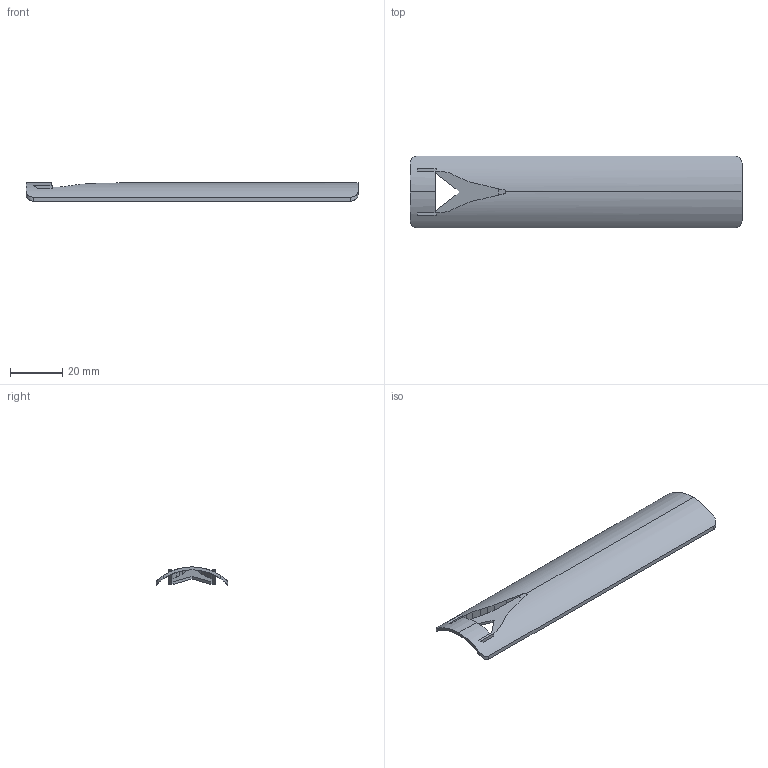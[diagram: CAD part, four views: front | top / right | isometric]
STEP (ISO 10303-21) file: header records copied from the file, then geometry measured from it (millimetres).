
FILE_DESCRIPTION(('SkyG Speed 90B - revision C6B-1 - 2026-10-07','HF-front-hatch'),'2;1');
FILE_NAME('HF-front-hatch_C6B-1','2026-10-07T21:43:16',('Author'),( 'Open CASCADE'),'Open CASCADE STEP processor 7.9','Open CASCADE 7.9' ,'Unknown');
FILE_SCHEMA(('AUTOMOTIVE_DESIGN { 1 0 10303 214 1 1 1 1 }'));
Length unit declared in the file: millimetre
Products named in the file (1): HF-front-hatch C6B-1
Bounding box: 127.4 x 27.4 x 6.98 mm (x, y, z)
Volume: 4276.5 mm3; surface area: 8394.6 mm2
Topology: 1 solids, 1 shells, 85 faces, 240 edges, 157 vertices
Faces by surface type: plane 60, bspline 16, cylinder 9
Entity records: 8674 total; most frequent: CARTESIAN_POINT 4473, DIRECTION 572, ORIENTED_EDGE 480, PCURVE 480, DEFINITIONAL_REPRESENTATION 480, LINE 362, VECTOR 362, B_SPLINE_CURVE_WITH_KNOTS 306
